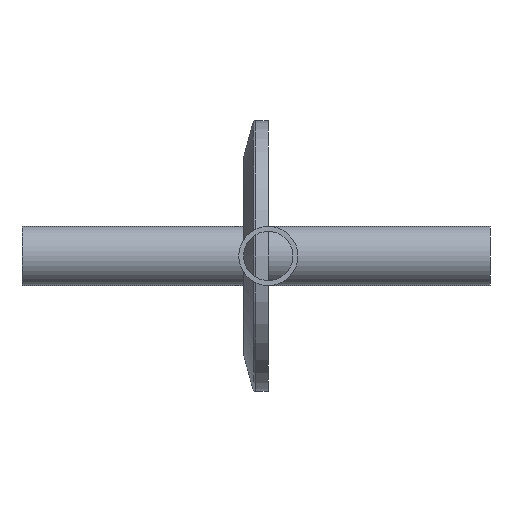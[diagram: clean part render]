
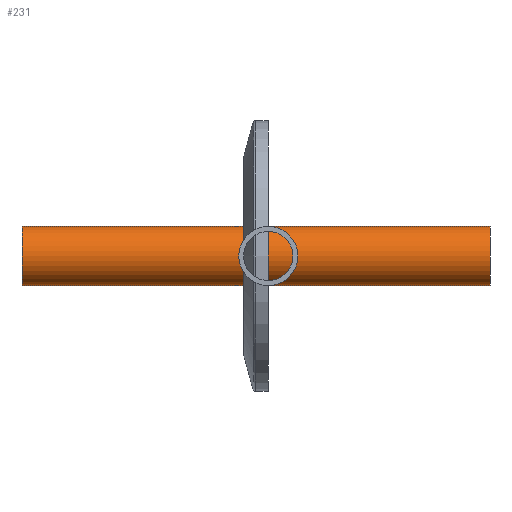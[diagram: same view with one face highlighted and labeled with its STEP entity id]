
A CAD part, front view. The second image highlights one B-rep face of the part: STEP entity #231.
In plain terms, the highlighted cylindrical face has radius 6 mm (diameter 12 mm), a full revolution.
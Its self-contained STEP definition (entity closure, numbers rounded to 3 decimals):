
#231 = ADVANCED_FACE( '', ( #316, #317 ), #318, .T. );
#316 = FACE_OUTER_BOUND( '', #354, .T. );
#317 = FACE_OUTER_BOUND( '', #355, .T. );
#318 = CYLINDRICAL_SURFACE( '', #356, 6. );
#354 = EDGE_LOOP( '', ( #407 ) );
#355 = EDGE_LOOP( '', ( #408 ) );
#356 = AXIS2_PLACEMENT_3D( '', #409, #410, #411 );
#407 = ORIENTED_EDGE( '', *, *, #463, .T. );
#408 = ORIENTED_EDGE( '', *, *, #464, .F. );
#409 = CARTESIAN_POINT( '', ( 0., -95., 0. ) );
#410 = DIRECTION( '', ( 0., -1., 0. ) );
#411 = DIRECTION( '', ( 0., 0., 1. ) );
#463 = EDGE_CURVE( '', #508, #508, #509, .T. );
#464 = EDGE_CURVE( '', #510, #510, #511, .T. );
#508 = VERTEX_POINT( '', #516 );
#509 = CIRCLE( '', #517, 6. );
#510 = VERTEX_POINT( '', #518 );
#511 = CIRCLE( '', #519, 6. );
#516 = CARTESIAN_POINT( '', ( 6., -95., 0. ) );
#517 = AXIS2_PLACEMENT_3D( '', #526, #527, #528 );
#518 = CARTESIAN_POINT( '', ( 6., 0., 0. ) );
#519 = AXIS2_PLACEMENT_3D( '', #529, #530, #531 );
#526 = CARTESIAN_POINT( '', ( 0., -95., 0. ) );
#527 = DIRECTION( '', ( 0., 1., 0. ) );
#528 = DIRECTION( '', ( 1., 0., 0. ) );
#529 = CARTESIAN_POINT( '', ( 0., 0., 0. ) );
#530 = DIRECTION( '', ( 0., 1., 0. ) );
#531 = DIRECTION( '', ( 1., 0., 0. ) );
